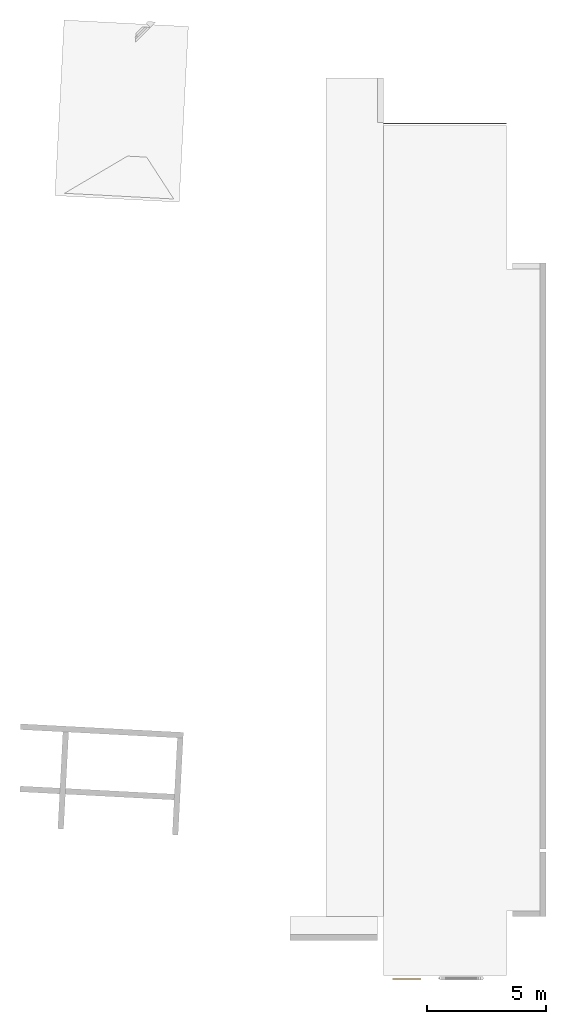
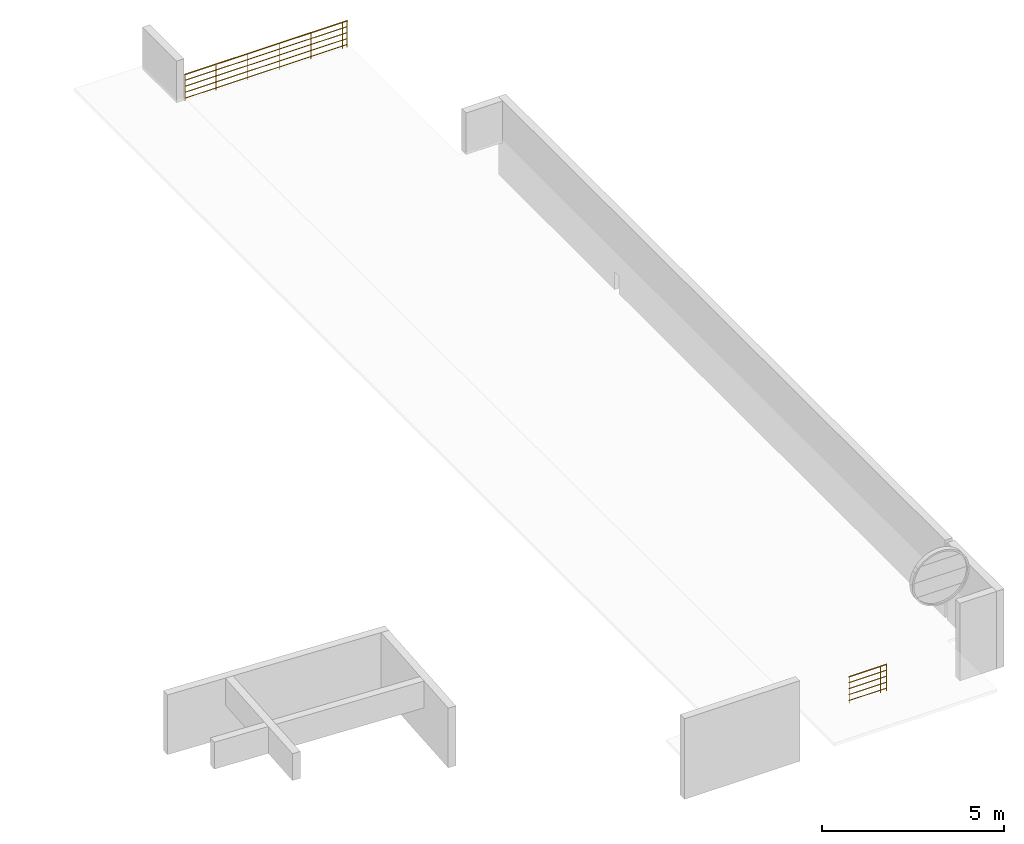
# One storey, part 4 of 4: 2 railings.
"""IFC2X3 building model written with IfcOpenShell, lengths in millimetres."""

from ifc_helpers import new_model, entity, si_unit, converted_unit, derived_unit, direction, frame, origin, origin_2d_with_axis, place, context, subcontext, project, spatial, circle, extrude, material, element, save


model = new_model("IFC2X3")

# Units and contexts
model_context = context("Model", 3, precision=0.01, world=origin(), true_north=direction((6.12303176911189e-17, 1.0)))
body_context = subcontext(model_context, "Body", "Model", "MODEL_VIEW")
ifc_project = project(units=[si_unit("LENGTHUNIT", "METRE", prefix="MILLI"), si_unit("AREAUNIT", "SQUARE_METRE"), si_unit("VOLUMEUNIT", "CUBIC_METRE"), converted_unit("PLANEANGLEUNIT", "DEGREE", entity("IfcRatioMeasure", 0.0174532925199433), si_unit("PLANEANGLEUNIT", "RADIAN"), dimensions=[0, 0, 0, 0, 0, 0, 0]), si_unit("MASSUNIT", "GRAM", prefix="KILO"), derived_unit("MASSDENSITYUNIT", [(si_unit("MASSUNIT", "GRAM", prefix="KILO"), 1), (si_unit("LENGTHUNIT", "METRE"), -3)]), si_unit("TIMEUNIT", "SECOND"), si_unit("FREQUENCYUNIT", "HERTZ"), si_unit("THERMODYNAMICTEMPERATUREUNIT", "DEGREE_CELSIUS"), derived_unit("THERMALTRANSMITTANCEUNIT", [(si_unit("MASSUNIT", "GRAM", prefix="KILO"), 1), (si_unit("THERMODYNAMICTEMPERATUREUNIT", "KELVIN"), -1), (si_unit("TIMEUNIT", "SECOND"), -3)]), derived_unit("VOLUMETRICFLOWRATEUNIT", [(si_unit("LENGTHUNIT", "METRE"), 3), (si_unit("TIMEUNIT", "SECOND"), -1)]), si_unit("ELECTRICCURRENTUNIT", "AMPERE"), si_unit("ELECTRICVOLTAGEUNIT", "VOLT"), si_unit("POWERUNIT", "WATT"), si_unit("FORCEUNIT", "NEWTON", prefix="KILO"), si_unit("ILLUMINANCEUNIT", "LUX"), si_unit("LUMINOUSFLUXUNIT", "LUMEN"), si_unit("LUMINOUSINTENSITYUNIT", "CANDELA"), derived_unit("USERDEFINED", [(si_unit("MASSUNIT", "GRAM", prefix="KILO"), -1), (si_unit("LENGTHUNIT", "METRE"), -2), (si_unit("TIMEUNIT", "SECOND"), 3), (si_unit("LUMINOUSFLUXUNIT", "LUMEN"), 1)]), derived_unit("LINEARVELOCITYUNIT", [(si_unit("LENGTHUNIT", "METRE"), 1), (si_unit("TIMEUNIT", "SECOND"), -1)]), si_unit("PRESSUREUNIT", "PASCAL"), derived_unit("USERDEFINED", [(si_unit("LENGTHUNIT", "METRE"), -2), (si_unit("MASSUNIT", "GRAM", prefix="KILO"), 1), (si_unit("TIMEUNIT", "SECOND"), -2)])], contexts=[model_context])

# Site, building, storey
site_placement = place(None, origin())
site = spatial("IfcSite", under=ifc_project, at=site_placement, Name="表面", CompositionType="ELEMENT")
building_placement = place(site_placement, origin())
building = spatial("IfcBuilding", under=site, at=building_placement, CompositionType="ELEMENT")
storey_placement = place(building_placement, frame((0.0, 0.0, 9000.0)))
storey = spatial("IfcBuildingStorey", under=building, at=storey_placement, Name="4F", CompositionType="ELEMENT", Elevation=9000.00000000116)

# Railings
ifc_material = material(Name="不锈钢")
railing_1_placement = place(storey_placement, origin())
element("IfcRailing", 1, at=railing_1_placement, inside=storey, material=ifc_material, Name="栏杆扶手:900mm 圆管", ObjectType="栏杆扶手:900mm 圆管", PredefinedType="NOTDEFINED", context=body_context, shape_type="SweptSolid", body=[
    extrude(circle(Radius=12.5, at=origin_2d_with_axis()), frame((-10530.2499126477, -32141.868426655, 2600.0), z_axis=(0.0, 0.0, 1.0), x_axis=(0.0, 1.0, 0.0)), (0.0, 0.0, 1.0), 859.999999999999),
    extrude(circle(Radius=12.5, at=origin_2d_with_axis()), frame((-10342.7499126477, -32141.868426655, 2600.0), z_axis=(0.0, 0.0, 1.0), x_axis=(0.0, 1.0, 0.0)), (0.0, 0.0, 1.0), 859.999999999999),
    extrude(circle(Radius=12.5, at=origin_2d_with_axis()), frame((-11517.7499126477, -32141.868426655, 2600.0), z_axis=(0.0, 0.0, 1.0), x_axis=(0.0, 1.0, 0.0)), (0.0, 0.0, 1.0), 859.999999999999),
    extrude(circle(Radius=20.0, at=origin_2d_with_axis()), frame((-11530.2499126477, -32141.868426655, 3480.0), z_axis=(1.0, 0.0, 0.0), x_axis=(0.0, -1.0, 0.0)), (0.0, 0.0, 1.0), 1199.99999999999),
    extrude(circle(Radius=15.0, at=origin_2d_with_axis()), frame((-11530.2499126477, -32141.868426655, 3285.0), z_axis=(1.0, 0.0, 0.0), x_axis=(0.0, -1.0, 0.0)), (0.0, 0.0, 1.0), 1199.99999999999),
    extrude(circle(Radius=15.0, at=origin_2d_with_axis()), frame((-11530.2499126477, -32141.868426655, 3085.0), z_axis=(1.0, 0.0, 0.0), x_axis=(0.0, -1.0, 0.0)), (0.0, 0.0, 1.0), 1199.99999999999),
    extrude(circle(Radius=15.0, at=origin_2d_with_axis()), frame((-11530.2499126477, -32141.868426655, 2885.0), z_axis=(1.0, 0.0, 0.0), x_axis=(0.0, -1.0, 0.0)), (0.0, 0.0, 1.0), 1199.99999999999),
    extrude(circle(Radius=15.0, at=origin_2d_with_axis()), frame((-11530.2499126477, -32141.868426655, 2685.0), z_axis=(1.0, 0.0, 0.0), x_axis=(0.0, -1.0, 0.0)), (0.0, 0.0, 1.0), 1199.99999999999),
])
railing_2_placement = place(storey_placement, origin())
element("IfcRailing", 2, at=railing_2_placement, inside=storey, material=ifc_material, Name="栏杆扶手:900mm 圆管", ObjectType="栏杆扶手:900mm 圆管", PredefinedType="NOTDEFINED", context=body_context, shape_type="SweptSolid", body=[
    extrude(circle(Radius=12.5, at=origin_2d_with_axis()), frame((-6910.24991264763, 3658.131573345, 1200.0), z_axis=(0.0, 0.0, 1.0), x_axis=(0.0, 1.0, 0.0)), (0.0, 0.0, 1.0), 859.999999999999),
    extrude(circle(Radius=12.5, at=origin_2d_with_axis()), frame((-7910.24991264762, 3658.131573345, 1200.0), z_axis=(0.0, 0.0, 1.0), x_axis=(0.0, 1.0, 0.0)), (0.0, 0.0, 1.0), 859.999999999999),
    extrude(circle(Radius=12.5, at=origin_2d_with_axis()), frame((-8910.24991264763, 3658.131573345, 1200.0), z_axis=(0.0, 0.0, 1.0), x_axis=(0.0, 1.0, 0.0)), (0.0, 0.0, 1.0), 859.999999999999),
    extrude(circle(Radius=12.5, at=origin_2d_with_axis()), frame((-9910.24991264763, 3658.13157334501, 1200.0), z_axis=(0.0, 0.0, 1.0), x_axis=(0.0, 1.0, 0.0)), (0.0, 0.0, 1.0), 859.999999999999),
    extrude(circle(Radius=12.5, at=origin_2d_with_axis()), frame((-10910.2499126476, 3658.13157334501, 1200.0), z_axis=(0.0, 0.0, 1.0), x_axis=(0.0, 1.0, 0.0)), (0.0, 0.0, 1.0), 859.999999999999),
    extrude(circle(Radius=12.5, at=origin_2d_with_axis()), frame((-6762.74991264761, 3658.131573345, 1200.0), z_axis=(0.0, 0.0, 1.0), x_axis=(0.0, 1.0, 0.0)), (0.0, 0.0, 1.0), 859.999999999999),
    extrude(circle(Radius=12.5, at=origin_2d_with_axis()), frame((-11897.7499126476, 3658.13157334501, 1200.0), z_axis=(0.0, 0.0, 1.0), x_axis=(0.0, 1.0, 0.0)), (0.0, 0.0, 1.0), 859.999999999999),
    extrude(circle(Radius=20.0, at=origin_2d_with_axis()), frame((-11910.2499126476, 3658.13157334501, 2080.0), z_axis=(1.0, 0.0, 0.0), x_axis=(0.0, -1.0, 0.0)), (0.0, 0.0, 1.0), 5160.00000000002),
    extrude(circle(Radius=15.0, at=origin_2d_with_axis()), frame((-11910.2499126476, 3658.13157334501, 1885.0), z_axis=(1.0, 0.0, 0.0), x_axis=(0.0, -1.0, 0.0)), (0.0, 0.0, 1.0), 5160.00000000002),
    extrude(circle(Radius=15.0, at=origin_2d_with_axis()), frame((-11910.2499126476, 3658.13157334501, 1685.0), z_axis=(1.0, 0.0, 0.0), x_axis=(0.0, -1.0, 0.0)), (0.0, 0.0, 1.0), 5160.00000000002),
    extrude(circle(Radius=15.0, at=origin_2d_with_axis()), frame((-11910.2499126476, 3658.13157334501, 1485.0), z_axis=(1.0, 0.0, 0.0), x_axis=(0.0, -1.0, 0.0)), (0.0, 0.0, 1.0), 5160.00000000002),
    extrude(circle(Radius=15.0, at=origin_2d_with_axis()), frame((-11910.2499126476, 3658.13157334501, 1285.0), z_axis=(1.0, 0.0, 0.0), x_axis=(0.0, -1.0, 0.0)), (0.0, 0.0, 1.0), 5160.00000000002),
])

save(model, "model.ifc")
